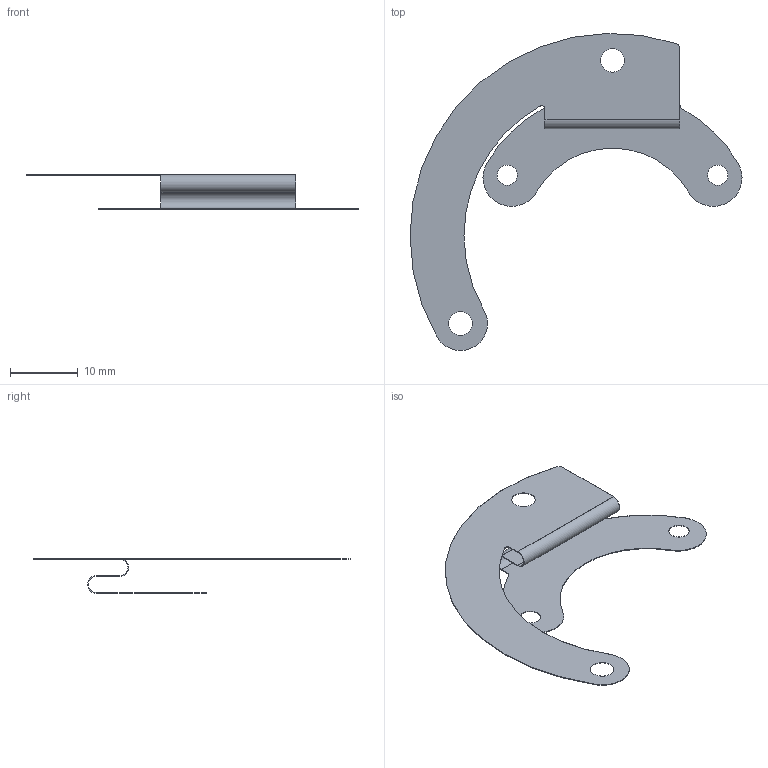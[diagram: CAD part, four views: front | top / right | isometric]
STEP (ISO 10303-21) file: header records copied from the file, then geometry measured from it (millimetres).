
FILE_DESCRIPTION (( 'STEP AP214' ), '1' );
FILE_NAME ('MH_Part5.STEP', '2024-06-18T01:27:23', ( '' ), ( '' ), 'SwSTEP 2.0', 'SolidWorks 2023', '' );
FILE_SCHEMA (( 'AUTOMOTIVE_DESIGN' ));
Length unit declared in the file: millimetre
Products named in the file (1): MH_Part5
Bounding box: 49.19 x 46.99 x 5.1 mm (x, y, z)
Volume: 118.1 mm3; surface area: 2393.9 mm2
Topology: 2 solids, 2 shells, 41 faces, 109 edges, 72 vertices
Faces by surface type: cylinder 27, plane 14
Entity records: 1350 total; most frequent: DIRECTION 246, CARTESIAN_POINT 226, ORIENTED_EDGE 218, EDGE_CURVE 109, AXIS2_PLACEMENT_3D 96, VERTEX_POINT 72, LINE 54, VECTOR 54
